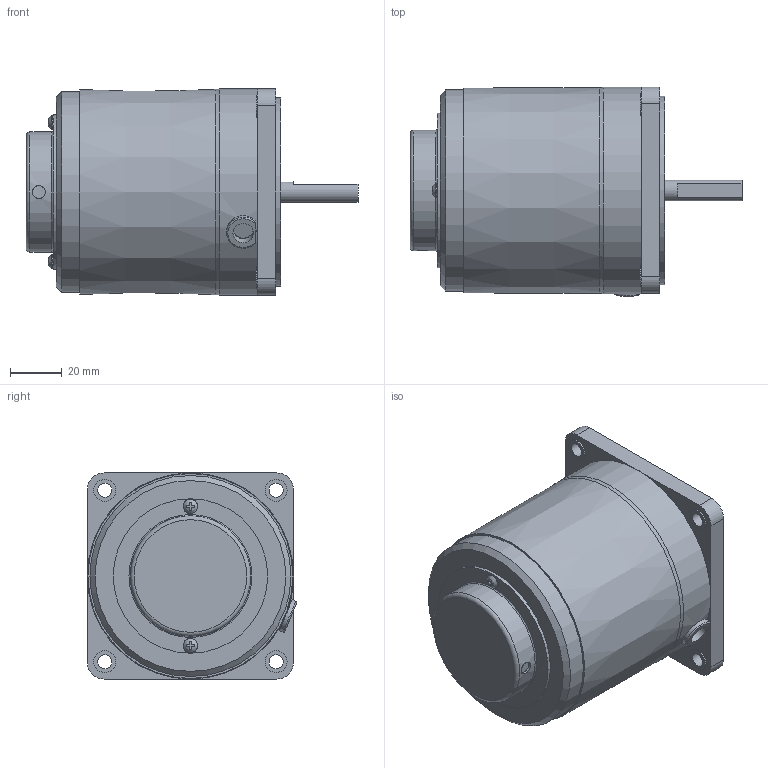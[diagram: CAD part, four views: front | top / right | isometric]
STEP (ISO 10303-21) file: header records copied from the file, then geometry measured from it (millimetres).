
FILE_DESCRIPTION((''),'2;1');
FILE_NAME('D:\STP파일\25W MOTOR\SPEED CONTROL TYPE\S8I15D-S.stp','2013-05-20T16:41:40',('leebh'),(''),'Autodesk Inventor 2011','Autodesk Inventor 2011','');
FILE_SCHEMA(('AUTOMOTIVE_DESIGN { 1 0 10303 214 1 1 1 1 }'));
Length unit declared in the file: millimetre
Products named in the file (1): 부품3
Bounding box: 128.8 x 81.2 x 80 mm (x, y, z)
Volume: 449455.5 mm3; surface area: 40193.9 mm2
Topology: 1 solids, 6 shells, 143 faces, 323 edges, 209 vertices
Faces by surface type: plane 87, cylinder 43, torus 9, bspline 2, cone 2
Full cylindrical faces by diameter (mm): 3 x2, 3.5 x2, 5 x1, 5.5 x4, 5.6 x2, 8 x2, 8.5 x4, 34 x1, 44.7 x1, 46.7 x1, 47.7 x1, 59.9 x1, 73 x1, 78 x1, 80 x1
Entity records: 4125 total; most frequent: CARTESIAN_POINT 968, DIRECTION 634, ORIENTED_EDGE 566, EDGE_CURVE 283, AXIS2_PLACEMENT_3D 240, EDGE_LOOP 211, VERTEX_POINT 206, VECTOR 154
